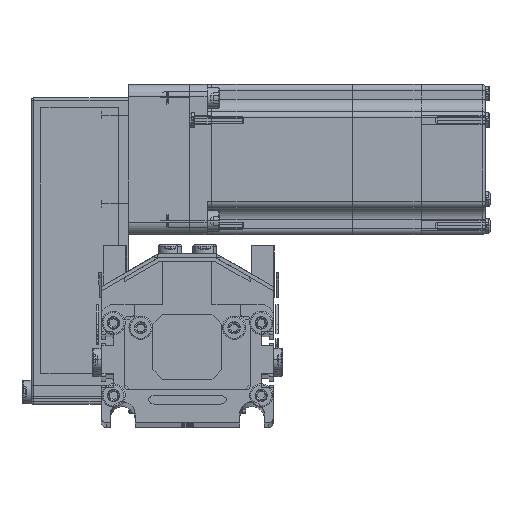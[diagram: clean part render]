
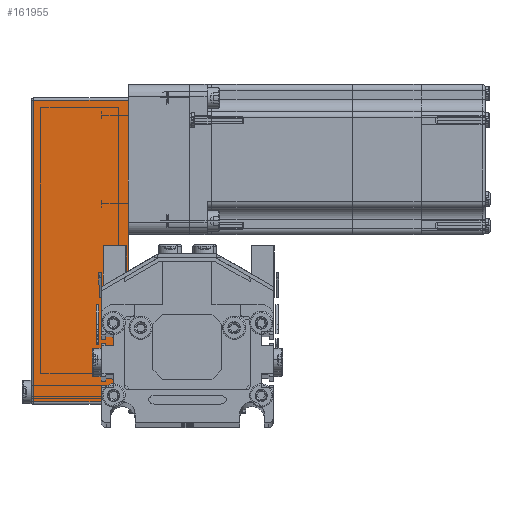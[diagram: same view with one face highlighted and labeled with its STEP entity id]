
A CAD part, top view. The second image highlights one B-rep face of the part: STEP entity #161955.
In plain terms, the highlighted planar face has unit normal (0, 0, 1) as drawn and (0, -1, 0) by its records, which use the part's own axes.
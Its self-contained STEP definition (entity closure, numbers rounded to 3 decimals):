
#69315 = CARTESIAN_POINT ( 'NONE',  ( 73.5, -25., 38.5 ) ) ;
#71256 = CARTESIAN_POINT ( 'NONE',  ( -49., -25., 38.5 ) ) ;
#71263 = CARTESIAN_POINT ( 'NONE',  ( 73.5, -25., 0. ) ) ;
#71315 = DIRECTION ( 'NONE',  ( 1., 0., 0. ) ) ;
#71316 = VECTOR ( 'NONE', #71315, 1000. ) ;
#71318 = CARTESIAN_POINT ( 'NONE',  ( -50., -25., 0. ) ) ;
#71323 = LINE ( 'NONE', #71318, #71316 ) ;
#71334 = DIRECTION ( 'NONE',  ( 0., 0., 1. ) ) ;
#71335 = VECTOR ( 'NONE', #71334, 1000. ) ;
#71357 = CARTESIAN_POINT ( 'NONE',  ( 73.5, -25., 39.5 ) ) ;
#71358 = LINE ( 'NONE', #71357, #71335 ) ;
#71626 = AXIS2_PLACEMENT_3D ( 'NONE', #71702, #71691, #71686 ) ;
#71676 = DIRECTION ( 'NONE',  ( -1., 0., 0. ) ) ;
#71677 = VECTOR ( 'NONE', #71676, 1000. ) ;
#71678 = CARTESIAN_POINT ( 'NONE',  ( -50., -25., 38.5 ) ) ;
#71679 = LINE ( 'NONE', #71678, #71677 ) ;
#71681 = DIRECTION ( 'NONE',  ( 0., 0., -1. ) ) ;
#71686 = DIRECTION ( 'NONE',  ( 0., 0., 1. ) ) ;
#71688 = VECTOR ( 'NONE', #71681, 1000. ) ;
#71689 = CARTESIAN_POINT ( 'NONE',  ( -49., -25., 39.5 ) ) ;
#71691 = DIRECTION ( 'NONE',  ( 0., 1., 0. ) ) ;
#71692 = LINE ( 'NONE', #71689, #71688 ) ;
#71693 = FACE_OUTER_BOUND ( 'NONE', #162059, .T. ) ;
#71702 = CARTESIAN_POINT ( 'NONE',  ( -50., -25., 39.5 ) ) ;
#71708 = PLANE ( 'NONE',  #71626 ) ;
#71829 = CARTESIAN_POINT ( 'NONE',  ( -49., -25., 0. ) ) ;
#161528 = VERTEX_POINT ( 'NONE', #69315 ) ;
#161545 = VERTEX_POINT ( 'NONE', #71263 ) ;
#161570 = VERTEX_POINT ( 'NONE', #71256 ) ;
#161589 = EDGE_CURVE ( 'NONE', #162067, #161545, #71323, .T. ) ;
#161654 = EDGE_CURVE ( 'NONE', #161545, #161528, #71358, .T. ) ;
#161667 = ORIENTED_EDGE ( 'NONE', *, *, #161958, .T. ) ;
#161955 = ADVANCED_FACE ( 'NONE', ( #71693 ), #71708, .F. ) ;
#161957 = EDGE_CURVE ( 'NONE', #161570, #162067, #71692, .T. ) ;
#161958 = EDGE_CURVE ( 'NONE', #161528, #161570, #71679, .T. ) ;
#161961 = ORIENTED_EDGE ( 'NONE', *, *, #161589, .T. ) ;
#161963 = ORIENTED_EDGE ( 'NONE', *, *, #161957, .T. ) ;
#161967 = ORIENTED_EDGE ( 'NONE', *, *, #161654, .T. ) ;
#162059 = EDGE_LOOP ( 'NONE', ( #161667, #161963, #161961, #161967 ) ) ;
#162067 = VERTEX_POINT ( 'NONE', #71829 ) ;
